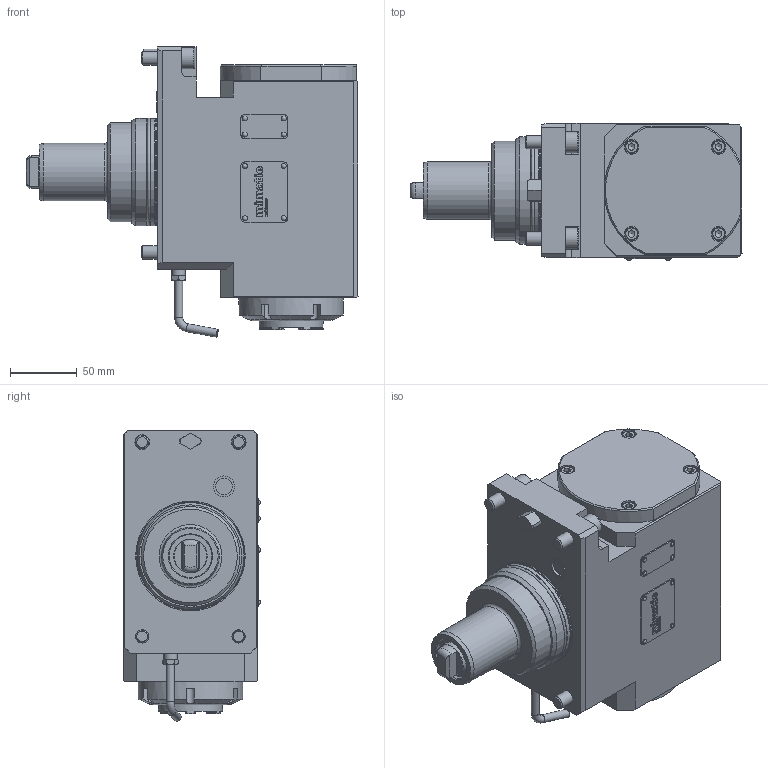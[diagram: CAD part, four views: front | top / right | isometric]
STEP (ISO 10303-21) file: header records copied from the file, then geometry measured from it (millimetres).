
FILE_DESCRIPTION(/* description */ (''),/* implementation_level */ '2;1');
FILE_NAME(/* name */ '175592',/* time_stamp */ '2020-02-24T12:59:46+01:00',/* author */ (''),/* organization */ (''),/* preprocessor_version */ 'ST-DEVELOPER v16.5',/* originating_system */ 'HiCAD 2017 2201.0 Build 268',/* authorisation */ '');
FILE_SCHEMA (('AUTOMOTIVE_DESIGN { 1 0 10303 214 1 1 1 1 }'));
Length unit declared in the file: millimetre
Products named in the file (10): Root; Teil; ABCDEFGHIJKLMNOPQRSTUVWXYZ[\]^_`ABCDEFGHIJKLMNOP镀燊Ʊ; GEWINDE; DIN 76-M8
Assembly tree (9 placements, depth 3):
  Root
    Teil
      ABCDEFGHIJKLMNOPQRSTUVWXYZ[\]^_`ABCDEFGHIJKLMNOP镀燊Ʊ
      ABCDEFGHIJKLMNOPQRSTUVWXYZ[\]^_`ABCDEFGHIJKLMNOP镀燊Ʊ
      ABCDEFGHIJKLMNOPQRSTUVWXYZ[\]^_`ABCDEFGHIJKLMNOP镀燊Ʊ
      ABCDEFGHIJKLMNOPQRSTUVWXYZ[\]^_`ABCDEFGHIJKLMNOP镀燊Ʊ
      ABCDEFGHIJKLMNOPQRSTUVWXYZ[\]^_`ABCDEFGHIJKLMNOP镀燊Ʊ
      ABCDEFGHIJKLMNOPQRSTUVWXYZ[\]^_`ABCDEFGHIJKLMNOP镀燊Ʊ
      GEWINDE
      DIN 76-M8
Bounding box: 248 x 102.3 x 216.83 mm (x, y, z)
Volume: 2733734.7 mm3; surface area: 179219.3 mm2
Topology: 11 solids, 20 shells, 744 faces, 1945 edges, 1270 vertices
Faces by surface type: plane 449, cylinder 170, cone 44, bspline 42, torus 31, sphere 8
Full cylindrical faces by diameter (mm): 2 x8, 2.2 x8, 4 x2, 6 x2, 6.466 x2, 6.8 x2, 8 x3, 8.16 x8, 8.773 x2, 10 x11, 11 x6, 12.42 x1, 15.78 x1, 16 x4, 18 x2, 25 x1, 30.5 x2, 32 x1, 33.5 x2, 35 x1, 37.03 x1, 43 x1, 47.9 x1, 48.16 x2, 50 x2, 50.5 x1, 74 x1, 75.8 x2, 78 x1, 79.6 x1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
Entity records: 45477 total; most frequent: CARTESIAN_POINT 8125, PRESENTATION_STYLE_ASSIGNMENT 3880, OVER_RIDING_STYLED_ITEM 3871, COLOUR_RGB 3505, DRAUGHTING_PRE_DEFINED_CURVE_FONT 3496, CURVE_STYLE 3496, ORIENTED_EDGE 3496, DIRECTION 3430
